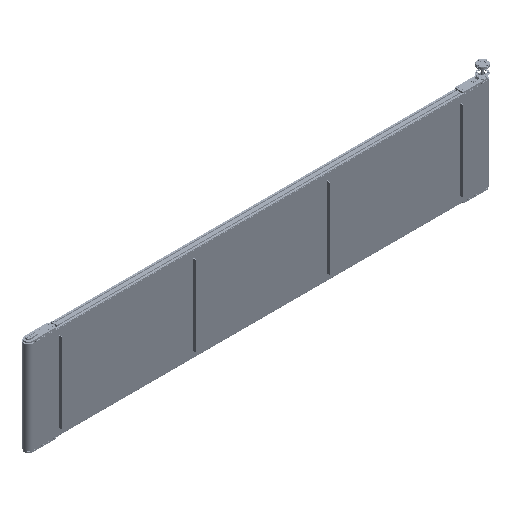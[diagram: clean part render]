
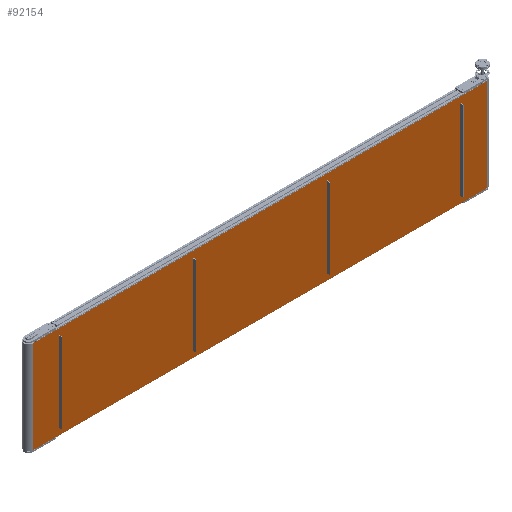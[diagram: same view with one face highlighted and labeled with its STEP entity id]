
A CAD part, isometric view. The second image highlights one B-rep face of the part: STEP entity #92154.
In plain terms, the highlighted planar face has unit normal (0, -1, 0).
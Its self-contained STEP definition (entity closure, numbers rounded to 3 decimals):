
#9667 = LINE ( 'NONE', #160146, #161692 ) ;
#22060 = EDGE_CURVE ( 'NONE', #145945, #167151, #114748, .T. ) ;
#22476 = DIRECTION ( 'NONE',  ( 1., 0., 0. ) ) ;
#22835 = VECTOR ( 'NONE', #35100, 1000. ) ;
#28076 = CARTESIAN_POINT ( 'NONE',  ( 2450., -49.5, 500. ) ) ;
#31087 = EDGE_CURVE ( 'NONE', #167151, #166748, #74726, .T. ) ;
#31939 = AXIS2_PLACEMENT_3D ( 'NONE', #93656, #37109, #50799 ) ;
#35100 = DIRECTION ( 'NONE',  ( 0., 0., -1. ) ) ;
#35913 = EDGE_CURVE ( 'NONE', #178010, #166748, #133621, .T. ) ;
#37109 = DIRECTION ( 'NONE',  ( 0., 1., 0. ) ) ;
#46426 = CARTESIAN_POINT ( 'NONE',  ( -2450., -49.5, -500. ) ) ;
#50799 = DIRECTION ( 'NONE',  ( 0., 0., 1. ) ) ;
#52605 = VECTOR ( 'NONE', #142939, 1000. ) ;
#52901 = EDGE_CURVE ( 'NONE', #145945, #178010, #9667, .T. ) ;
#70539 = CARTESIAN_POINT ( 'NONE',  ( -2450., -49.5, -500. ) ) ;
#72446 = ORIENTED_EDGE ( 'NONE', *, *, #31087, .T. ) ;
#72758 = CARTESIAN_POINT ( 'NONE',  ( -2450., -49.5, 500. ) ) ;
#74726 = LINE ( 'NONE', #46426, #92896 ) ;
#91868 = PLANE ( 'NONE',  #31939 ) ;
#92154 = ADVANCED_FACE ( 'NONE', ( #162903 ), #91868, .F. ) ;
#92614 = CARTESIAN_POINT ( 'NONE',  ( -2450., -49.5, 500. ) ) ;
#92896 = VECTOR ( 'NONE', #103912, 1000. ) ;
#93656 = CARTESIAN_POINT ( 'NONE',  ( -2450., -49.5, 500. ) ) ;
#103912 = DIRECTION ( 'NONE',  ( 1., 0., 0. ) ) ;
#114748 = LINE ( 'NONE', #72758, #52605 ) ;
#115951 = ORIENTED_EDGE ( 'NONE', *, *, #52901, .F. ) ;
#116351 = ORIENTED_EDGE ( 'NONE', *, *, #35913, .F. ) ;
#133621 = LINE ( 'NONE', #160034, #22835 ) ;
#142939 = DIRECTION ( 'NONE',  ( 0., 0., -1. ) ) ;
#145945 = VERTEX_POINT ( 'NONE', #92614 ) ;
#152877 = EDGE_LOOP ( 'NONE', ( #72446, #116351, #115951, #171389 ) ) ;
#160034 = CARTESIAN_POINT ( 'NONE',  ( 2450., -49.5, 500. ) ) ;
#160146 = CARTESIAN_POINT ( 'NONE',  ( -2450., -49.5, 500. ) ) ;
#161692 = VECTOR ( 'NONE', #22476, 1000. ) ;
#162903 = FACE_OUTER_BOUND ( 'NONE', #152877, .T. ) ;
#166748 = VERTEX_POINT ( 'NONE', #170090 ) ;
#167151 = VERTEX_POINT ( 'NONE', #70539 ) ;
#170090 = CARTESIAN_POINT ( 'NONE',  ( 2450., -49.5, -500. ) ) ;
#171389 = ORIENTED_EDGE ( 'NONE', *, *, #22060, .T. ) ;
#178010 = VERTEX_POINT ( 'NONE', #28076 ) ;
